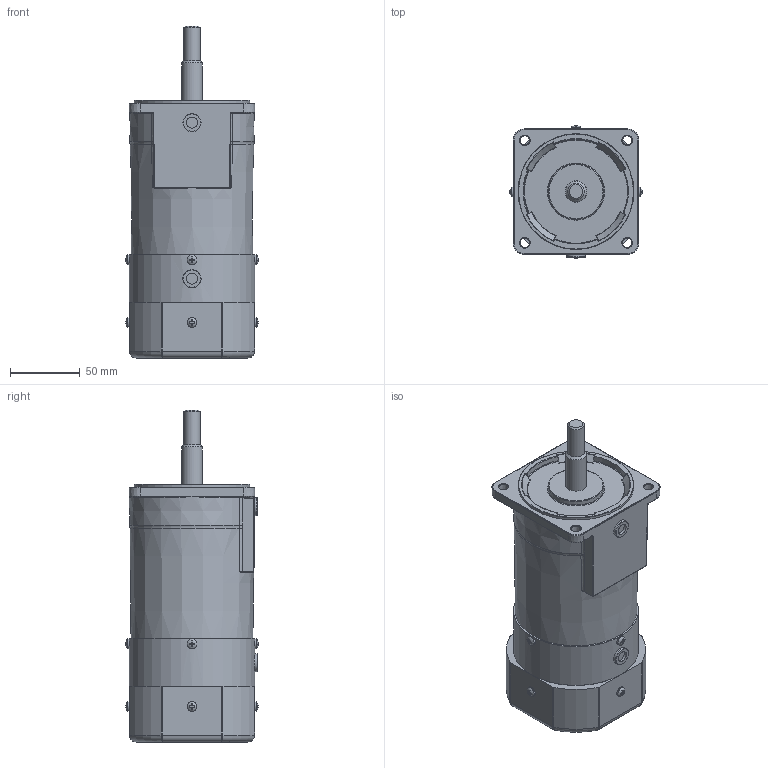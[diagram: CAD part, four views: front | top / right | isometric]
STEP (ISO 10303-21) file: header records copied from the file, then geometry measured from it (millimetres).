
FILE_DESCRIPTION (( 'STEP AP214' ), '1' );
FILE_NAME ('9BDG¤±-120FHC.STEP', '2025-01-13T07:51:02', ( '' ), ( '' ), 'SwSTEP 2.0', 'SolidWorks 2024', '' );
FILE_SCHEMA (( 'AUTOMOTIVE_DESIGN' ));
Length unit declared in the file: millimetre
Products named in the file (1): 9BDGㅁ-120FHC
Bounding box: 95.09 x 95.09 x 238.3 mm (x, y, z)
Volume: 1202178.2 mm3; surface area: 76689.1 mm2
Topology: 1 solids, 1 shells, 468 faces, 1198 edges, 751 vertices
Faces by surface type: plane 199, cylinder 145, bspline 40, torus 40, cone 34, sphere 10
Full cylindrical faces by diameter (mm): 6.1 x1, 6.5 x4, 7 x8, 8 x2, 11.93 x1, 13 x2, 15 x1, 15.5 x1, 83.1 x1, 90 x1
Entity records: 15514 total; most frequent: CARTESIAN_POINT 4806, ORIENTED_EDGE 2202, DIRECTION 2185, EDGE_CURVE 1101, AXIS2_PLACEMENT_3D 851, VERTEX_POINT 728, EDGE_LOOP 569, FACE_OUTER_BOUND 503
